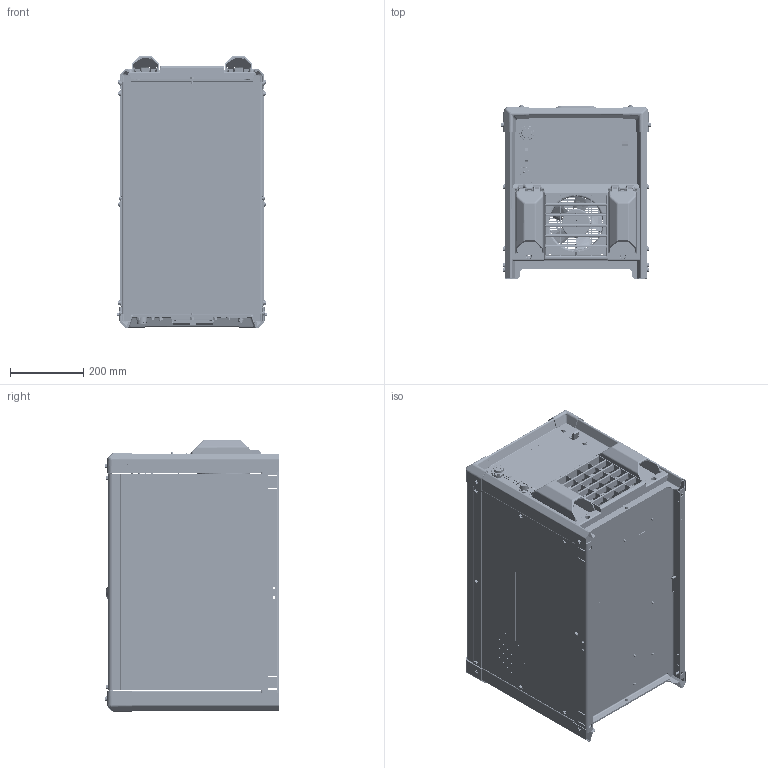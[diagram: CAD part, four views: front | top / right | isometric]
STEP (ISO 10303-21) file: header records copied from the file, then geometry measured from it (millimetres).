
FILE_DESCRIPTION (( 'STEP AP214' ), '1' );
FILE_NAME ('907862 Shell.STEP', '2024-05-28T13:32:26', ( '' ), ( '' ), 'SwSTEP 2.0', 'SolidWorks 2022', '' );
FILE_SCHEMA (( 'AUTOMOTIVE_DESIGN' ));
Length unit declared in the file: inch
Products named in the file (1): 907862 Shell
Bounding box: 407.82 x 476.65 x 743.94 mm (x, y, z)
Surface area: 3422726.9 mm2 (no closed solid volume)
Topology: 0 solids, 277 shells, 3916 faces, 15997 edges, 11880 vertices
Faces by surface type: plane 1964, cylinder 1482, bspline 230, cone 135, torus 80, sphere 25
Entity records: 237105 total; most frequent: CARTESIAN_POINT 58562, DIRECTION 25270, ORIENTED_EDGE 24172, EDGE_CURVE 15935, VERTEX_POINT 11879, VECTOR 8788, LINE 8788, AXIS2_PLACEMENT_3D 8241
